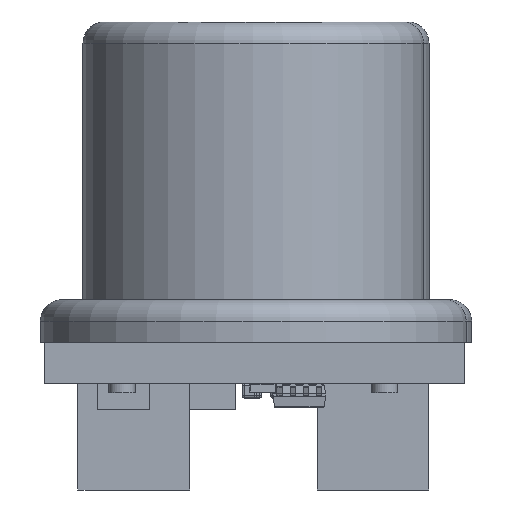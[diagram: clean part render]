
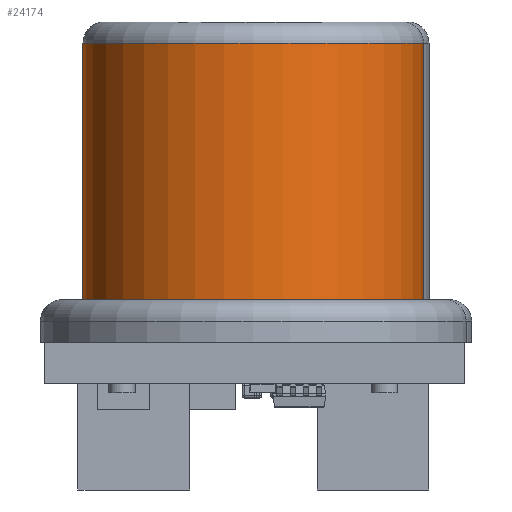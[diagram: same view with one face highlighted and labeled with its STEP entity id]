
A CAD part, front view. The second image highlights one B-rep face of the part: STEP entity #24174.
In plain terms, the highlighted cylindrical face has radius 6.48 mm (diameter 12.96 mm), a full revolution.
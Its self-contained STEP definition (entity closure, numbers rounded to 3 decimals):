
#3179=FACE_OUTER_BOUND('',#4796,.T.);
#4796=EDGE_LOOP('',(#17604,#17605,#17606,#17607));
#6207=LINE('',#34528,#8427);
#8427=VECTOR('',#28560,6.48);
#10754=CIRCLE('',#26053,6.48);
#10755=CIRCLE('',#26055,6.48);
#11409=VERTEX_POINT('',#34523);
#11410=VERTEX_POINT('',#34527);
#13760=EDGE_CURVE('',#11409,#11409,#10754,.T.);
#13761=EDGE_CURVE('',#11409,#11410,#6207,.T.);
#13762=EDGE_CURVE('',#11410,#11410,#10755,.T.);
#17604=ORIENTED_EDGE('',*,*,#13760,.F.);
#17605=ORIENTED_EDGE('',*,*,#13761,.T.);
#17606=ORIENTED_EDGE('',*,*,#13762,.F.);
#17607=ORIENTED_EDGE('',*,*,#13761,.F.);
#23775=CYLINDRICAL_SURFACE('',#26054,6.48);
#24174=ADVANCED_FACE('',(#3179),#23775,.T.);
#26053=AXIS2_PLACEMENT_3D('',#34525,#28556,#28557);
#26054=AXIS2_PLACEMENT_3D('',#34526,#28558,#28559);
#26055=AXIS2_PLACEMENT_3D('',#34529,#28561,#28562);
#28556=DIRECTION('center_axis',(0.,0.,
1.));
#28557=DIRECTION('ref_axis',(0.,1.,0.));
#28558=DIRECTION('center_axis',(0.,0.,
1.));
#28559=DIRECTION('ref_axis',(0.,1.,0.));
#28560=DIRECTION('',(0.,0.,-1.));
#28561=DIRECTION('center_axis',(0.,0.,
-1.));
#28562=DIRECTION('ref_axis',(0.,1.,0.));
#34523=CARTESIAN_POINT('',(0.,-6.534,11.38));
#34525=CARTESIAN_POINT('Origin',(0.,-0.054,
11.38));
#34526=CARTESIAN_POINT('Origin',(0.,-0.054,
1.62));
#34527=CARTESIAN_POINT('',(0.,-6.534,1.62));
#34528=CARTESIAN_POINT('',(0.,-6.534,1.62));
#34529=CARTESIAN_POINT('Origin',(0.,-0.054,
1.62));
